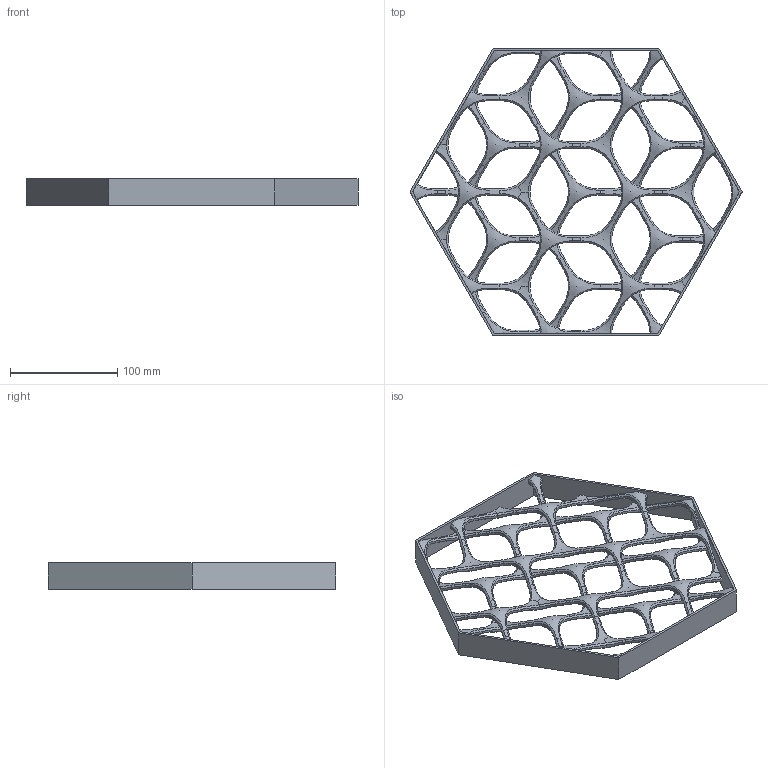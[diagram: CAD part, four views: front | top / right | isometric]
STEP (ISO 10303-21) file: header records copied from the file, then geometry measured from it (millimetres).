
FILE_DESCRIPTION(/* description */ ('STEP AP214'),/* implementation_level */ '2;1');
FILE_NAME(/* name */ '606386d9c42dd81595324d51',/* time_stamp */ '2021-03-30T20:15:26+00:00',/* author */ (''),/* organization */ (''),/* preprocessor_version */ 'ST-DEVELOPER v18.1',/* originating_system */ ' ',/* authorisation */ ' ');
FILE_SCHEMA (('AUTOMOTIVE_DESIGN {1 0 10303 214 3 1 1}'));
Products named in the file (1): Part 1
Bounding box: 309.93 x 268.42 x 25 mm (x, y, z)
Volume: 139871.6 mm3; surface area: 105050.8 mm2
Topology: 1 solids, 1 shells, 1620 faces, 4237 edges, 2461 vertices
Faces by surface type: bspline 1357, cylinder 141, plane 122
Entity records: 90103 total; most frequent: CARTESIAN_POINT 63530, ORIENTED_EDGE 8084, EDGE_CURVE 4042, B_SPLINE_CURVE_WITH_KNOTS 3760, VERTEX_POINT 2447, FACE_BOUND 1685, EDGE_LOOP 1625, ADVANCED_FACE 1617
